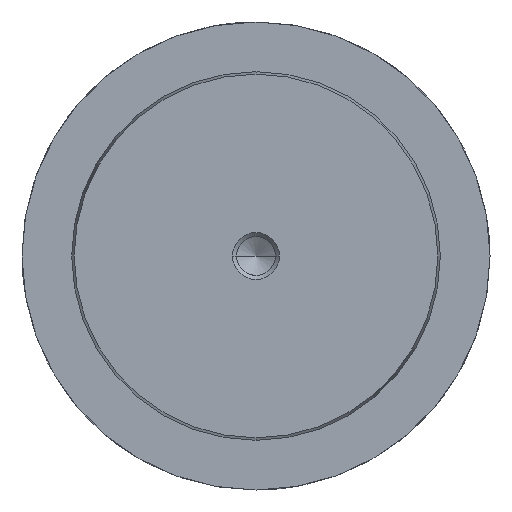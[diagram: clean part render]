
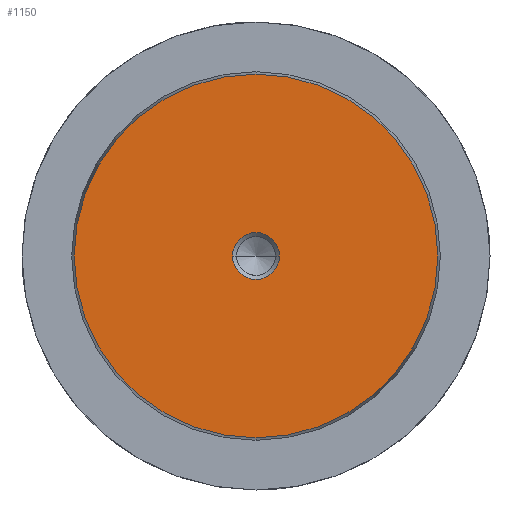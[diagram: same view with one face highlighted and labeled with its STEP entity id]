
A CAD part, left-side view. The second image highlights one B-rep face of the part: STEP entity #1150.
In plain terms, the highlighted planar face has unit normal (-1, 0, 0).
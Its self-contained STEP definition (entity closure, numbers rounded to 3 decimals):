
#1064=CARTESIAN_POINT('Vertex',(0.,0.,-31.078)) ;
#1067=CARTESIAN_POINT('Axis2P3D Location',(0.,0.,0.)) ;
#1071=CARTESIAN_POINT('Vertex',(0.,31.078,0.)) ;
#1074=CARTESIAN_POINT('Axis2P3D Location',(0.,0.,0.)) ;
#1078=CARTESIAN_POINT('Vertex',(0.,0.,31.078)) ;
#1100=CARTESIAN_POINT('Axis2P3D Location',(0.,0.,0.)) ;
#1104=CARTESIAN_POINT('Vertex',(0.,-31.078,0.)) ;
#1107=CARTESIAN_POINT('Axis2P3D Location',(0.,0.,0.)) ;
#1121=CARTESIAN_POINT('Axis2P3D Location',(0.,0.,0.)) ;
#1132=CARTESIAN_POINT('Axis2P3D Location',(0.,0.,0.)) ;
#1136=CARTESIAN_POINT('Vertex',(0.,4.,0.)) ;
#1138=CARTESIAN_POINT('Vertex',(0.,-4.,0.)) ;
#1141=CARTESIAN_POINT('Axis2P3D Location',(0.,0.,0.)) ;
#1068=DIRECTION('Axis2P3D Direction',(1.,0.,-0.)) ;
#1075=DIRECTION('Axis2P3D Direction',(1.,0.,-0.)) ;
#1101=DIRECTION('Axis2P3D Direction',(1.,0.,-0.)) ;
#1108=DIRECTION('Axis2P3D Direction',(1.,0.,-0.)) ;
#1122=DIRECTION('Axis2P3D Direction',(1.,0.,-0.)) ;
#1123=DIRECTION('Axis2P3D XDirection',(-0.,0.,-1.)) ;
#1133=DIRECTION('Axis2P3D Direction',(1.,0.,-0.)) ;
#1142=DIRECTION('Axis2P3D Direction',(1.,0.,-0.)) ;
#1069=AXIS2_PLACEMENT_3D('Circle Axis2P3D',#1067,#1068,$) ;
#1076=AXIS2_PLACEMENT_3D('Circle Axis2P3D',#1074,#1075,$) ;
#1102=AXIS2_PLACEMENT_3D('Circle Axis2P3D',#1100,#1101,$) ;
#1109=AXIS2_PLACEMENT_3D('Circle Axis2P3D',#1107,#1108,$) ;
#1124=AXIS2_PLACEMENT_3D('Plane Axis2P3D',#1121,#1122,#1123) ;
#1134=AXIS2_PLACEMENT_3D('Circle Axis2P3D',#1132,#1133,$) ;
#1143=AXIS2_PLACEMENT_3D('Circle Axis2P3D',#1141,#1142,$) ;
#1127=ORIENTED_EDGE('',*,*,#1073,.F.) ;
#1128=ORIENTED_EDGE('',*,*,#1111,.F.) ;
#1129=ORIENTED_EDGE('',*,*,#1106,.F.) ;
#1130=ORIENTED_EDGE('',*,*,#1080,.F.) ;
#1147=ORIENTED_EDGE('',*,*,#1140,.T.) ;
#1148=ORIENTED_EDGE('',*,*,#1145,.T.) ;
#1149=FACE_BOUND('',#1146,.T.) ;
#1150=ADVANCED_FACE('718-63x250',(#1131,#1149),#1125,.F.) ;
#1070=CIRCLE('generated circle',#1069,31.078) ;
#1077=CIRCLE('generated circle',#1076,31.078) ;
#1103=CIRCLE('generated circle',#1102,31.078) ;
#1110=CIRCLE('generated circle',#1109,31.078) ;
#1135=CIRCLE('generated circle',#1134,4.) ;
#1144=CIRCLE('generated circle',#1143,4.) ;
#1073=EDGE_CURVE('',#1065,#1072,#1070,.T.) ;
#1080=EDGE_CURVE('',#1072,#1079,#1077,.T.) ;
#1106=EDGE_CURVE('',#1079,#1105,#1103,.T.) ;
#1111=EDGE_CURVE('',#1105,#1065,#1110,.T.) ;
#1140=EDGE_CURVE('',#1137,#1139,#1135,.T.) ;
#1145=EDGE_CURVE('',#1139,#1137,#1144,.T.) ;
#1126=EDGE_LOOP('',(#1127,#1128,#1129,#1130)) ;
#1146=EDGE_LOOP('',(#1147,#1148)) ;
#1131=FACE_OUTER_BOUND('',#1126,.T.) ;
#1125=PLANE('Plane',#1124) ;
#1065=VERTEX_POINT('',#1064) ;
#1072=VERTEX_POINT('',#1071) ;
#1079=VERTEX_POINT('',#1078) ;
#1105=VERTEX_POINT('',#1104) ;
#1137=VERTEX_POINT('',#1136) ;
#1139=VERTEX_POINT('',#1138) ;
